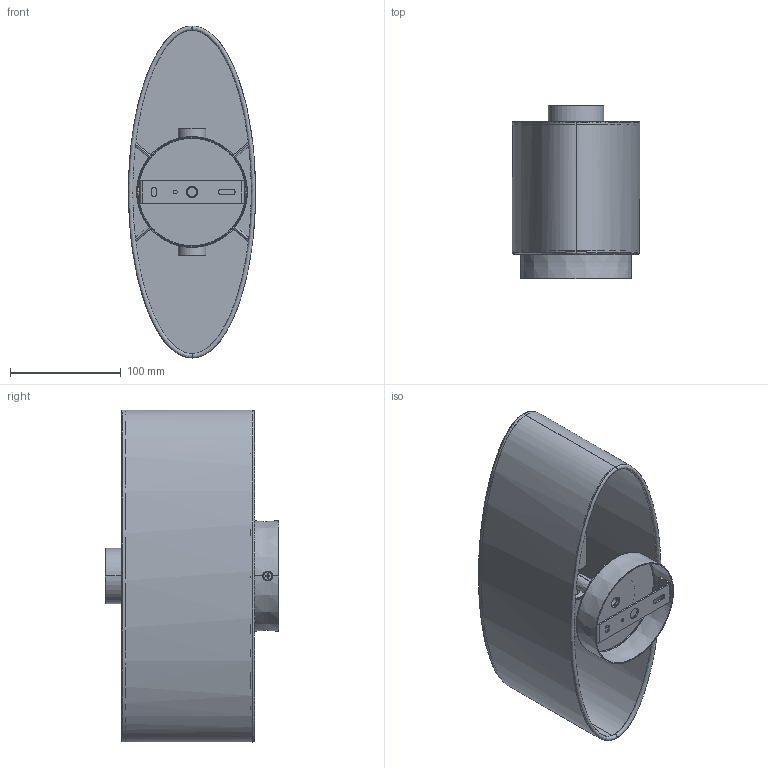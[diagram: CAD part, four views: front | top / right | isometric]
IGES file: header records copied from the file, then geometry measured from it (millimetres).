
Start section: SolidWorks IGES file using analytic representation for surfaces
Global section: file name: C:\Users\Agustin\Desktop\COMPARTIDA\Nueva Coleccion Septiembre 2026\XETA\XETA_A1362\3D\XETA_A1362.IGS; native system: SolidWorks 2023; preprocessor: SolidWorks 2023; author: Agustin; date: 260625.150803; units: millimetre
Bounding box: 114.95 x 157.01 x 300 mm (x, y, z)
Surface area: 301289.8 mm2 (no closed solid volume)
Topology: 0 solids, 0 shells, 450 faces, 5918 edges, 5918 vertices
Faces by surface type: bspline 247, revolution 203
